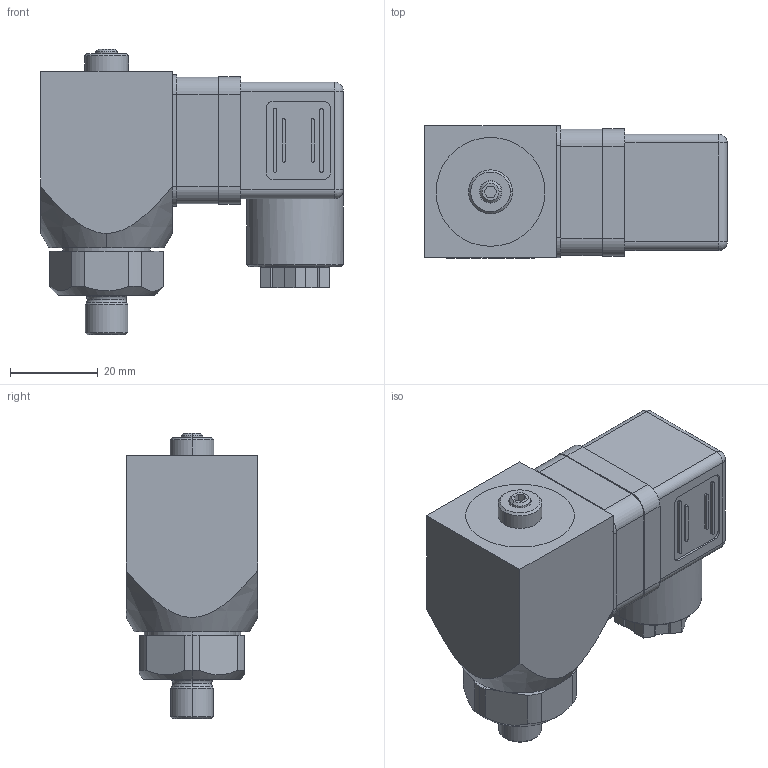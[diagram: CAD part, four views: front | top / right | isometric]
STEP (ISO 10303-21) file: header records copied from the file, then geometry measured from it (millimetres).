
FILE_DESCRIPTION (( 'STEP AP203' ), '1' );
FILE_NAME ('219499_INT_00_3D_01.STEP', '2014-08-19T13:34:11', ( '' ), ( '' ), 'SwSTEP 2.0', 'SolidWorks 2014', '' );
FILE_SCHEMA (( 'CONFIG_CONTROL_DESIGN' ));
Length unit declared in the file: millimetre
Products named in the file (1): 219499_INT_00_3D_01
Bounding box: 68.9 x 30 x 65 mm (x, y, z)
Volume: 62609.3 mm3; surface area: 27335.9 mm2
Topology: 11 solids, 11 shells, 341 faces, 838 edges, 538 vertices
Faces by surface type: plane 182, cylinder 118, cone 31, torus 6, sphere 4
Entity records: 10529 total; most frequent: CARTESIAN_POINT 2193, DIRECTION 1766, ORIENTED_EDGE 1662, EDGE_CURVE 831, AXIS2_PLACEMENT_3D 615, VERTEX_POINT 538, LINE 536, VECTOR 536
